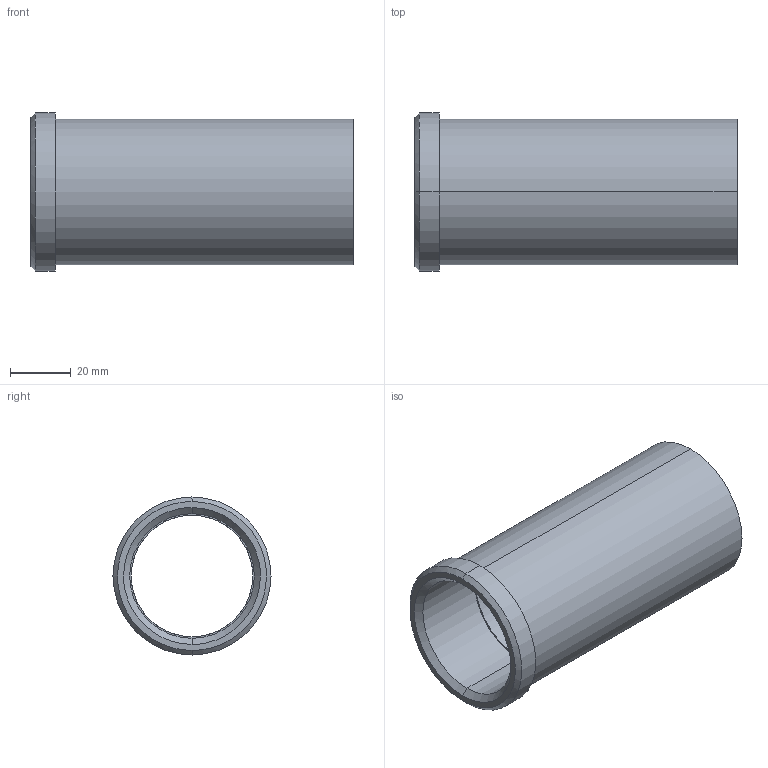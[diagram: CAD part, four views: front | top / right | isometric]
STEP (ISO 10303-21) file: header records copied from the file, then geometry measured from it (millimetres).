
FILE_DESCRIPTION(('CATIA V5 STEP Exchange'),'2;1');
FILE_NAME('C:\Users\Utente\Desktop\IO LAVORO\3D X SITO CF\X SITO\PLASTICA\353\353-40X106.stp','2021-05-13T18:21:50+00:00',('none'),('none'),'CATIA Version 5 Release 20 GA (IN-10)','CATIA V5 STEP AP203','none');
FILE_SCHEMA(('CONFIG_CONTROL_DESIGN'));
Length unit declared in the file: millimetre
Products named in the file (1): 353-40X106
Bounding box: 106 x 52 x 52 mm (x, y, z)
Volume: 58912.3 mm3; surface area: 30822.9 mm2
Topology: 1 solids, 1 shells, 18 faces, 58 edges, 44 vertices
Faces by surface type: cylinder 8, plane 4, cone 4, torus 2
Entity records: 840 total; most frequent: CARTESIAN_POINT 289, ORIENTED_EDGE 116, DIRECTION 82, EDGE_CURVE 58, AXIS2_PLACEMENT_3D 53, VERTEX_POINT 44, CIRCLE 34, EDGE_LOOP 22
